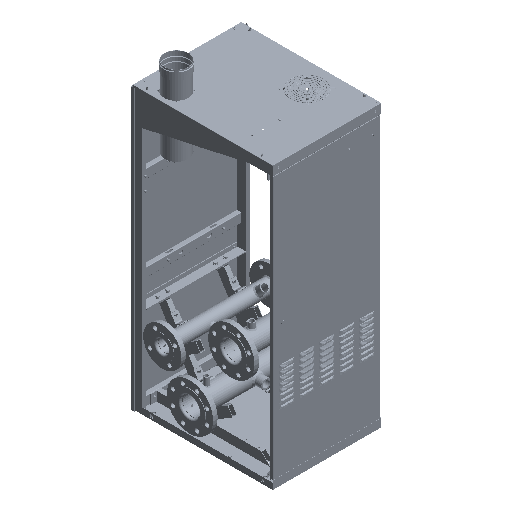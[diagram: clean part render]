
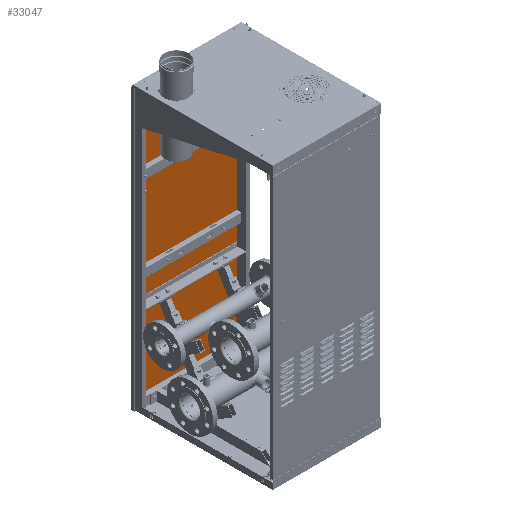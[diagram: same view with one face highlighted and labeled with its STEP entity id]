
A CAD part, isometric view. The second image highlights one B-rep face of the part: STEP entity #33047.
In plain terms, the highlighted planar face has unit normal (0, -1, 0) as drawn and (-1, 0, 0) by its records, which use the part's own axes.
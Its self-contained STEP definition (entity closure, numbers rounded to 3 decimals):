
#4651=LINE('',#66360,#7399);
#4652=LINE('',#66365,#7400);
#4653=LINE('',#66367,#7401);
#4654=LINE('',#66369,#7402);
#4655=LINE('',#66371,#7403);
#4656=LINE('',#66373,#7404);
#4657=LINE('',#66375,#7405);
#4658=LINE('',#66377,#7406);
#4659=LINE('',#66379,#7407);
#7399=VECTOR('',#44174,1000.);
#7400=VECTOR('',#44177,1000.);
#7401=VECTOR('',#44178,1000.);
#7402=VECTOR('',#44179,1000.);
#7403=VECTOR('',#44180,1000.);
#7404=VECTOR('',#44181,1000.);
#7405=VECTOR('',#44182,1000.);
#7406=VECTOR('',#44183,1000.);
#7407=VECTOR('',#44184,1000.);
#14626=ORIENTED_EDGE('',*,*,#19982,.T.);
#14627=ORIENTED_EDGE('',*,*,#19983,.T.);
#14628=ORIENTED_EDGE('',*,*,#19984,.T.);
#14629=ORIENTED_EDGE('',*,*,#19985,.T.);
#14630=ORIENTED_EDGE('',*,*,#19986,.T.);
#14631=ORIENTED_EDGE('',*,*,#19987,.T.);
#14632=ORIENTED_EDGE('',*,*,#19988,.T.);
#14633=ORIENTED_EDGE('',*,*,#19989,.T.);
#14634=ORIENTED_EDGE('',*,*,#19990,.T.);
#14635=ORIENTED_EDGE('',*,*,#19991,.T.);
#14636=ORIENTED_EDGE('',*,*,#19992,.T.);
#14637=ORIENTED_EDGE('',*,*,#19993,.T.);
#14638=ORIENTED_EDGE('',*,*,#19994,.T.);
#14639=ORIENTED_EDGE('',*,*,#19995,.T.);
#14640=ORIENTED_EDGE('',*,*,#19996,.T.);
#14641=ORIENTED_EDGE('',*,*,#19997,.F.);
#14642=ORIENTED_EDGE('',*,*,#19998,.F.);
#14643=ORIENTED_EDGE('',*,*,#19999,.F.);
#14644=ORIENTED_EDGE('',*,*,#20000,.F.);
#14645=ORIENTED_EDGE('',*,*,#20001,.T.);
#14646=ORIENTED_EDGE('',*,*,#20002,.T.);
#14647=ORIENTED_EDGE('',*,*,#20003,.F.);
#14648=ORIENTED_EDGE('',*,*,#20004,.F.);
#14649=ORIENTED_EDGE('',*,*,#20005,.F.);
#14650=ORIENTED_EDGE('',*,*,#20006,.F.);
#19982=EDGE_CURVE('',#23269,#23269,#24567,.T.);
#19983=EDGE_CURVE('',#23270,#23270,#24568,.T.);
#19984=EDGE_CURVE('',#23271,#23271,#24569,.T.);
#19985=EDGE_CURVE('',#23272,#23272,#24570,.T.);
#19986=EDGE_CURVE('',#23273,#23273,#24571,.T.);
#19987=EDGE_CURVE('',#23274,#23274,#24572,.T.);
#19988=EDGE_CURVE('',#23275,#23275,#24573,.T.);
#19989=EDGE_CURVE('',#23276,#23276,#24574,.T.);
#19990=EDGE_CURVE('',#23277,#23277,#24575,.T.);
#19991=EDGE_CURVE('',#23278,#23278,#24576,.T.);
#19992=EDGE_CURVE('',#23279,#23279,#24577,.T.);
#19993=EDGE_CURVE('',#23280,#23280,#24578,.T.);
#19994=EDGE_CURVE('',#23281,#23281,#24579,.T.);
#19995=EDGE_CURVE('',#23282,#23282,#24580,.T.);
#19996=EDGE_CURVE('',#23283,#23283,#24581,.T.);
#19997=EDGE_CURVE('',#23284,#23285,#4651,.T.);
#19998=EDGE_CURVE('',#23286,#23284,#24582,.F.);
#19999=EDGE_CURVE('',#23287,#23286,#4652,.T.);
#20000=EDGE_CURVE('',#23288,#23287,#4653,.T.);
#20001=EDGE_CURVE('',#23288,#23289,#4654,.T.);
#20002=EDGE_CURVE('',#23289,#23290,#4655,.T.);
#20003=EDGE_CURVE('',#23291,#23290,#4656,.T.);
#20004=EDGE_CURVE('',#23292,#23291,#4657,.T.);
#20005=EDGE_CURVE('',#23293,#23292,#4658,.T.);
#20006=EDGE_CURVE('',#23285,#23293,#4659,.T.);
#23269=VERTEX_POINT('',#66331);
#23270=VERTEX_POINT('',#66333);
#23271=VERTEX_POINT('',#66335);
#23272=VERTEX_POINT('',#66337);
#23273=VERTEX_POINT('',#66339);
#23274=VERTEX_POINT('',#66341);
#23275=VERTEX_POINT('',#66343);
#23276=VERTEX_POINT('',#66345);
#23277=VERTEX_POINT('',#66347);
#23278=VERTEX_POINT('',#66349);
#23279=VERTEX_POINT('',#66351);
#23280=VERTEX_POINT('',#66353);
#23281=VERTEX_POINT('',#66355);
#23282=VERTEX_POINT('',#66357);
#23283=VERTEX_POINT('',#66359);
#23284=VERTEX_POINT('',#66361);
#23285=VERTEX_POINT('',#66362);
#23286=VERTEX_POINT('',#66364);
#23287=VERTEX_POINT('',#66366);
#23288=VERTEX_POINT('',#66368);
#23289=VERTEX_POINT('',#66370);
#23290=VERTEX_POINT('',#66372);
#23291=VERTEX_POINT('',#66374);
#23292=VERTEX_POINT('',#66376);
#23293=VERTEX_POINT('',#66378);
#24567=CIRCLE('',#37344,8.);
#24568=CIRCLE('',#37345,8.);
#24569=CIRCLE('',#37346,5.);
#24570=CIRCLE('',#37347,10.);
#24571=CIRCLE('',#37348,10.);
#24572=CIRCLE('',#37349,10.);
#24573=CIRCLE('',#37350,10.);
#24574=CIRCLE('',#37351,5.);
#24575=CIRCLE('',#37352,5.);
#24576=CIRCLE('',#37353,5.);
#24577=CIRCLE('',#37354,5.);
#24578=CIRCLE('',#37355,5.);
#24579=CIRCLE('',#37356,8.);
#24580=CIRCLE('',#37357,1.75);
#24581=CIRCLE('',#37358,1.75);
#24582=CIRCLE('',#37359,7.5);
#26865=EDGE_LOOP('',(#14626));
#26866=EDGE_LOOP('',(#14627));
#26867=EDGE_LOOP('',(#14628));
#26868=EDGE_LOOP('',(#14629));
#26869=EDGE_LOOP('',(#14630));
#26870=EDGE_LOOP('',(#14631));
#26871=EDGE_LOOP('',(#14632));
#26872=EDGE_LOOP('',(#14633));
#26873=EDGE_LOOP('',(#14634));
#26874=EDGE_LOOP('',(#14635));
#26875=EDGE_LOOP('',(#14636));
#26876=EDGE_LOOP('',(#14637));
#26877=EDGE_LOOP('',(#14638));
#26878=EDGE_LOOP('',(#14639));
#26879=EDGE_LOOP('',(#14640));
#26880=EDGE_LOOP('',(#14641,#14642,#14643,#14644,#14645,#14646,#14647,#14648,
#14649,#14650));
#29646=FACE_BOUND('',#26865,.T.);
#29647=FACE_BOUND('',#26866,.T.);
#29648=FACE_BOUND('',#26867,.T.);
#29649=FACE_BOUND('',#26868,.T.);
#29650=FACE_BOUND('',#26869,.T.);
#29651=FACE_BOUND('',#26870,.T.);
#29652=FACE_BOUND('',#26871,.T.);
#29653=FACE_BOUND('',#26872,.T.);
#29654=FACE_BOUND('',#26873,.T.);
#29655=FACE_BOUND('',#26874,.T.);
#29656=FACE_BOUND('',#26875,.T.);
#29657=FACE_BOUND('',#26876,.T.);
#29658=FACE_BOUND('',#26877,.T.);
#29659=FACE_BOUND('',#26878,.T.);
#29660=FACE_BOUND('',#26879,.T.);
#29661=FACE_BOUND('',#26880,.T.);
#31388=PLANE('',#37343);
#33047=ADVANCED_FACE('',(#29646,#29647,#29648,#29649,#29650,#29651,#29652,
#29653,#29654,#29655,#29656,#29657,#29658,#29659,#29660,#29661),#31388,
 .F.);
#37343=AXIS2_PLACEMENT_3D('',#66329,#44142,#44143);
#37344=AXIS2_PLACEMENT_3D('',#66330,#44144,#44145);
#37345=AXIS2_PLACEMENT_3D('',#66332,#44146,#44147);
#37346=AXIS2_PLACEMENT_3D('',#66334,#44148,#44149);
#37347=AXIS2_PLACEMENT_3D('',#66336,#44150,#44151);
#37348=AXIS2_PLACEMENT_3D('',#66338,#44152,#44153);
#37349=AXIS2_PLACEMENT_3D('',#66340,#44154,#44155);
#37350=AXIS2_PLACEMENT_3D('',#66342,#44156,#44157);
#37351=AXIS2_PLACEMENT_3D('',#66344,#44158,#44159);
#37352=AXIS2_PLACEMENT_3D('',#66346,#44160,#44161);
#37353=AXIS2_PLACEMENT_3D('',#66348,#44162,#44163);
#37354=AXIS2_PLACEMENT_3D('',#66350,#44164,#44165);
#37355=AXIS2_PLACEMENT_3D('',#66352,#44166,#44167);
#37356=AXIS2_PLACEMENT_3D('',#66354,#44168,#44169);
#37357=AXIS2_PLACEMENT_3D('',#66356,#44170,#44171);
#37358=AXIS2_PLACEMENT_3D('',#66358,#44172,#44173);
#37359=AXIS2_PLACEMENT_3D('',#66363,#44175,#44176);
#44142=DIRECTION('',(1.,0.,0.));
#44143=DIRECTION('',(0.,0.,-1.));
#44144=DIRECTION('',(1.,0.,0.));
#44145=DIRECTION('',(0.,1.,0.));
#44146=DIRECTION('',(1.,0.,0.));
#44147=DIRECTION('',(0.,1.,0.));
#44148=DIRECTION('',(1.,0.,0.));
#44149=DIRECTION('',(0.,0.,-1.));
#44150=DIRECTION('',(1.,0.,0.));
#44151=DIRECTION('',(0.,0.,-1.));
#44152=DIRECTION('',(1.,0.,0.));
#44153=DIRECTION('',(0.,0.,-1.));
#44154=DIRECTION('',(1.,0.,0.));
#44155=DIRECTION('',(0.,0.,-1.));
#44156=DIRECTION('',(1.,0.,0.));
#44157=DIRECTION('',(0.,0.,-1.));
#44158=DIRECTION('',(1.,0.,0.));
#44159=DIRECTION('',(0.,0.,-1.));
#44160=DIRECTION('',(1.,0.,0.));
#44161=DIRECTION('',(0.,0.,-1.));
#44162=DIRECTION('',(1.,0.,0.));
#44163=DIRECTION('',(0.,0.,-1.));
#44164=DIRECTION('',(1.,0.,0.));
#44165=DIRECTION('',(0.,0.,-1.));
#44166=DIRECTION('',(1.,0.,0.));
#44167=DIRECTION('',(0.,0.,-1.));
#44168=DIRECTION('',(1.,0.,0.));
#44169=DIRECTION('',(0.,1.,0.));
#44170=DIRECTION('',(1.,0.,0.));
#44171=DIRECTION('',(0.,0.,1.));
#44172=DIRECTION('',(1.,0.,0.));
#44173=DIRECTION('',(0.,0.,1.));
#44174=DIRECTION('',(0.,0.,1.));
#44175=DIRECTION('',(1.,0.,0.));
#44176=DIRECTION('',(0.,0.,-1.));
#44177=DIRECTION('',(0.,0.,-1.));
#44178=DIRECTION('',(0.,-1.,0.));
#44179=DIRECTION('',(0.,0.,-1.));
#44180=DIRECTION('',(0.,-1.,0.));
#44181=DIRECTION('',(0.,0.,-1.));
#44182=DIRECTION('',(0.,-1.,0.));
#44183=DIRECTION('',(0.,0.,-1.));
#44184=DIRECTION('',(0.,-1.,0.));
#66329=CARTESIAN_POINT('',(-24.968,71.909,1210.));
#66330=CARTESIAN_POINT('',(-24.968,-355.591,910.));
#66331=CARTESIAN_POINT('',(-24.968,-347.591,910.));
#66332=CARTESIAN_POINT('',(-24.968,-355.591,940.));
#66333=CARTESIAN_POINT('',(-24.968,-347.591,940.));
#66334=CARTESIAN_POINT('',(-24.968,54.909,1161.));
#66335=CARTESIAN_POINT('',(-24.968,54.909,1156.));
#66336=CARTESIAN_POINT('',(-24.968,-336.589,20.));
#66337=CARTESIAN_POINT('',(-24.968,-336.589,10.));
#66338=CARTESIAN_POINT('',(-24.968,-292.592,20.));
#66339=CARTESIAN_POINT('',(-24.968,-292.592,10.));
#66340=CARTESIAN_POINT('',(-24.968,-46.593,20.));
#66341=CARTESIAN_POINT('',(-24.968,-46.593,10.));
#66342=CARTESIAN_POINT('',(-24.968,-2.59,20.));
#66343=CARTESIAN_POINT('',(-24.968,-2.59,10.));
#66344=CARTESIAN_POINT('',(-24.968,27.909,392.));
#66345=CARTESIAN_POINT('',(-24.968,27.909,387.));
#66346=CARTESIAN_POINT('',(-24.968,-367.091,392.));
#66347=CARTESIAN_POINT('',(-24.968,-367.091,387.));
#66348=CARTESIAN_POINT('',(-24.968,27.909,869.5));
#66349=CARTESIAN_POINT('',(-24.968,27.909,864.5));
#66350=CARTESIAN_POINT('',(-24.968,-367.091,869.5));
#66351=CARTESIAN_POINT('',(-24.968,-367.091,864.5));
#66352=CARTESIAN_POINT('',(-24.968,-394.091,1161.));
#66353=CARTESIAN_POINT('',(-24.968,-394.091,1156.));
#66354=CARTESIAN_POINT('',(-24.968,-355.591,970.));
#66355=CARTESIAN_POINT('',(-24.968,-347.591,970.));
#66356=CARTESIAN_POINT('',(-24.968,-57.091,1090.));
#66357=CARTESIAN_POINT('',(-24.968,-57.091,1091.75));
#66358=CARTESIAN_POINT('',(-24.968,-161.891,1090.));
#66359=CARTESIAN_POINT('',(-24.968,-161.891,1091.75));
#66360=CARTESIAN_POINT('',(-24.968,-363.091,1210.));
#66361=CARTESIAN_POINT('',(-24.968,-363.091,1142.5));
#66362=CARTESIAN_POINT('',(-24.968,-363.091,1210.));
#66363=CARTESIAN_POINT('',(-24.968,-355.591,1142.5));
#66364=CARTESIAN_POINT('',(-24.968,-348.091,1142.5));
#66365=CARTESIAN_POINT('',(-24.968,-348.091,1210.));
#66366=CARTESIAN_POINT('',(-24.968,-348.091,1210.));
#66367=CARTESIAN_POINT('',(-24.968,71.909,1210.));
#66368=CARTESIAN_POINT('',(-24.968,71.909,1210.));
#66369=CARTESIAN_POINT('',(-24.968,71.909,1210.));
#66370=CARTESIAN_POINT('',(-24.968,71.909,0.));
#66371=CARTESIAN_POINT('',(-24.968,71.909,0.));
#66372=CARTESIAN_POINT('',(-24.968,-405.091,0.));
#66373=CARTESIAN_POINT('',(-24.968,-405.091,1210.));
#66374=CARTESIAN_POINT('',(-24.968,-405.091,5.));
#66375=CARTESIAN_POINT('',(-24.968,-391.591,5.));
#66376=CARTESIAN_POINT('',(-24.968,-404.091,5.));
#66377=CARTESIAN_POINT('',(-24.968,-404.091,1210.));
#66378=CARTESIAN_POINT('',(-24.968,-404.091,1210.));
#66379=CARTESIAN_POINT('',(-24.968,71.909,1210.));
